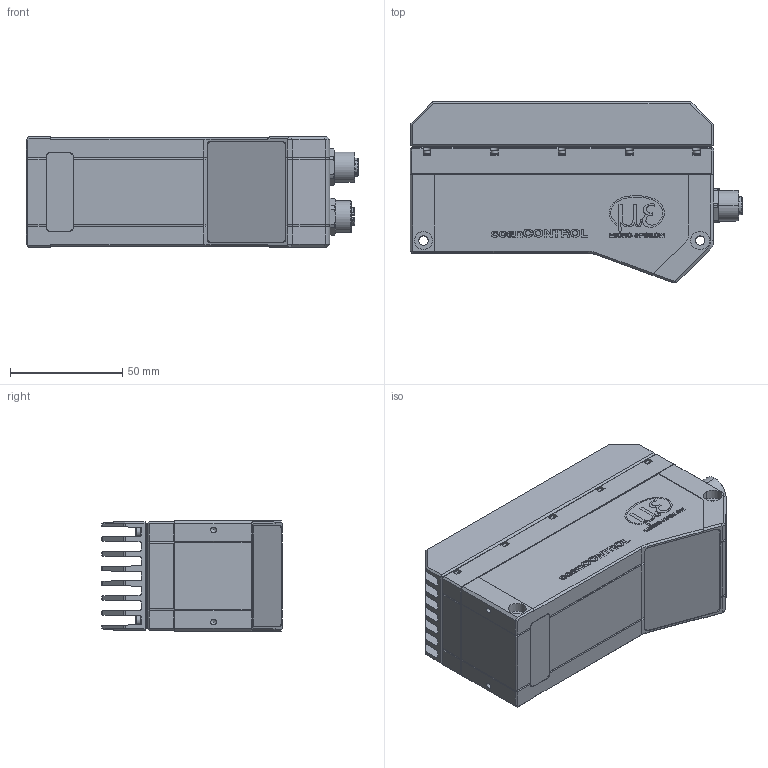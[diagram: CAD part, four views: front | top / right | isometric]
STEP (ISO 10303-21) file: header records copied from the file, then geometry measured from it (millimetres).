
FILE_DESCRIPTION (( 'STEP AP214' ), '1' );
FILE_NAME ('LLT8500-xx.step', '2025-03-14T07:55:12', ( '' ), ( '' ), 'SwSTEP 2.0', 'SolidWorks 2022', '' );
FILE_SCHEMA (( 'AUTOMOTIVE_DESIGN' ));
Length unit declared in the file: millimetre
Products named in the file (1): LLT8500-xx
Bounding box: 147.6 x 80.19 x 49 mm (x, y, z)
Volume: 381641.1 mm3; surface area: 73996 mm2
Topology: 1 solids, 14 shells, 2921 faces, 7617 edges, 4910 vertices
Faces by surface type: plane 1438, bspline 729, cylinder 496, cone 186, torus 72
Full cylindrical faces by diameter (mm): 0.72 x19, 2.2 x15, 2.5 x2, 2.685 x4, 2.921 x10, 3 x14, 3.781 x4, 3.94 x4, 4 x4, 4.2 x2, 8 x2, 17 x2
Entity records: 142539 total; most frequent: CARTESIAN_POINT 45154, ORIENTED_EDGE 14690, DIRECTION 11072, EDGE_CURVE 7345, VERTEX_POINT 4818, VECTOR 4292, LINE 4292, AXIS2_PLACEMENT_3D 3390
